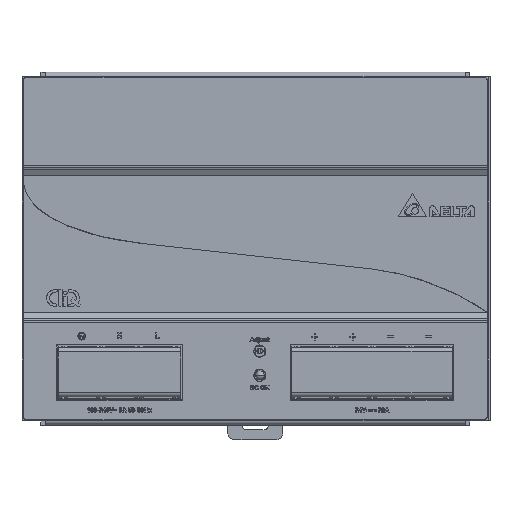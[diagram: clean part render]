
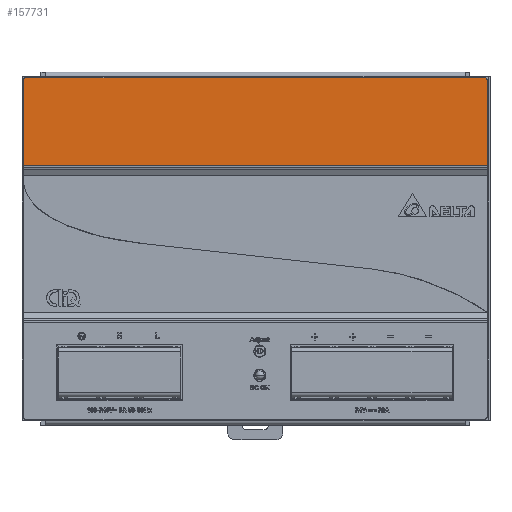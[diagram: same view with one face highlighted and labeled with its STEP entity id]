
A CAD part, top view. The second image highlights one B-rep face of the part: STEP entity #157731.
In plain terms, the highlighted planar face has unit normal (0, 0, 1).
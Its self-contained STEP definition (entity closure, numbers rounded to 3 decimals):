
#139777=DIRECTION('',(0.,-1.,0.));
#139778=VECTOR('',#139777,29.263);
#139779=CARTESIAN_POINT('',(0.,116.2,0.175));
#139780=LINE('',#139779,#139778);
#139900=CARTESIAN_POINT('',(158.2,116.2,0.175));
#139901=DIRECTION('',(0.,0.,1.));
#139902=DIRECTION('',(1.,0.,0.));
#139903=AXIS2_PLACEMENT_3D('',#139900,#139901,#139902);
#139908=DIRECTION('',(-1.,0.,0.));
#139909=VECTOR('',#139908,159.2);
#139910=CARTESIAN_POINT('',(159.2,86.937,0.175));
#139911=LINE('',#139910,#139909);
#139915=CARTESIAN_POINT('',(1.,116.2,0.175));
#139916=DIRECTION('',(0.,0.,1.));
#139917=DIRECTION('',(0.,1.,0.));
#139918=AXIS2_PLACEMENT_3D('',#139915,#139916,#139917);
#139923=DIRECTION('',(1.,0.,0.));
#139924=VECTOR('',#139923,157.2);
#139925=CARTESIAN_POINT('',(1.,117.2,0.175));
#139926=LINE('',#139925,#139924);
#140023=DIRECTION('',(0.,-1.,0.));
#140024=VECTOR('',#140023,29.263);
#140025=CARTESIAN_POINT('',(159.2,116.2,0.175));
#140026=LINE('',#140025,#140024);
#157184=CARTESIAN_POINT('',(0.,86.937,0.175));
#157186=VERTEX_POINT('',#157184);
#157187=CARTESIAN_POINT('',(159.2,86.937,0.175));
#157188=VERTEX_POINT('',#157187);
#157191=CARTESIAN_POINT('',(159.2,116.2,0.175));
#157192=CARTESIAN_POINT('',(158.2,117.2,0.175));
#157193=VERTEX_POINT('',#157191);
#157194=VERTEX_POINT('',#157192);
#157203=CARTESIAN_POINT('',(1.,117.2,0.175));
#157204=VERTEX_POINT('',#157203);
#157205=CARTESIAN_POINT('',(0.,116.2,0.175));
#157206=VERTEX_POINT('',#157205);
#157715=CARTESIAN_POINT('',(0.,117.2,0.175));
#157716=DIRECTION('',(0.,0.,1.));
#157717=DIRECTION('',(0.,-1.,0.));
#157718=AXIS2_PLACEMENT_3D('',#157715,#157716,#157717);
#157719=PLANE('',#157718);
#157720=ORIENTED_EDGE('',*,*,#157705,.F.);
#157722=ORIENTED_EDGE('',*,*,#157721,.T.);
#157724=ORIENTED_EDGE('',*,*,#157723,.T.);
#157725=ORIENTED_EDGE('',*,*,#157634,.F.);
#157726=ORIENTED_EDGE('',*,*,#157676,.F.);
#157728=ORIENTED_EDGE('',*,*,#157727,.T.);
#157729=EDGE_LOOP('',(#157720,#157722,#157724,#157725,#157726,#157728));
#157730=FACE_OUTER_BOUND('',#157729,.F.);
#139904=CIRCLE('',#139903,1.);
#139919=CIRCLE('',#139918,1.);
#157634=EDGE_CURVE('',#157206,#157186,#139780,.T.);
#157676=EDGE_CURVE('',#157204,#157206,#139919,.T.);
#157705=EDGE_CURVE('',#157193,#157194,#139904,.T.);
#157721=EDGE_CURVE('',#157193,#157188,#140026,.T.);
#157723=EDGE_CURVE('',#157188,#157186,#139911,.T.);
#157727=EDGE_CURVE('',#157204,#157194,#139926,.T.);
#157731=ADVANCED_FACE('',(#157730),#157719,.T.);
